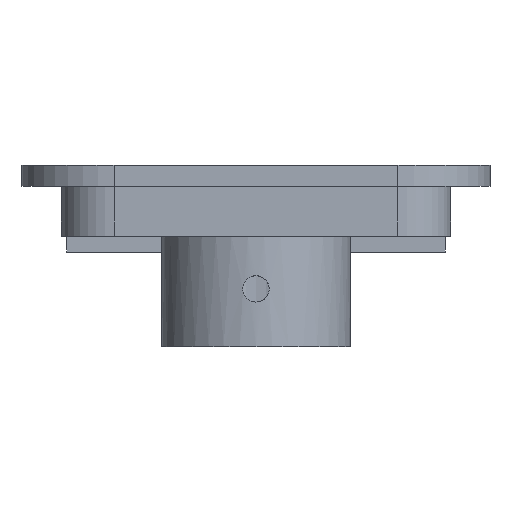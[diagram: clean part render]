
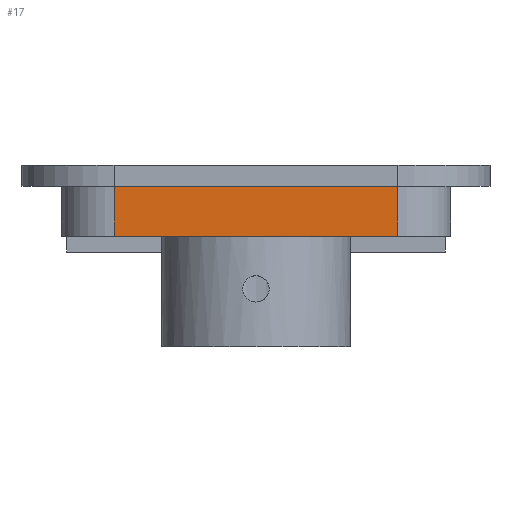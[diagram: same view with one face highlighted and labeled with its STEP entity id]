
A CAD part, left-side view. The second image highlights one B-rep face of the part: STEP entity #17.
In plain terms, the highlighted planar face has unit normal (-1, 0, 0).
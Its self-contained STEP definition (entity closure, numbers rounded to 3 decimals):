
#17 = ADVANCED_FACE('',(#18),#32,.T.);
#18 = FACE_BOUND('',#19,.T.);
#19 = EDGE_LOOP('',(#20,#55,#83,#109));
#20 = ORIENTED_EDGE('',*,*,#21,.F.);
#21 = EDGE_CURVE('',#22,#24,#26,.T.);
#22 = VERTEX_POINT('',#23);
#23 = CARTESIAN_POINT('',(-20.,-27.,0.));
#24 = VERTEX_POINT('',#25);
#25 = CARTESIAN_POINT('',(-20.,27.,0.));
#26 = SURFACE_CURVE('',#27,(#31,#43),.PCURVE_S1.);
#27 = LINE('',#28,#29);
#28 = CARTESIAN_POINT('',(-20.,0.,0.));
#29 = VECTOR('',#30,1.);
#30 = DIRECTION('',(0.,1.,0.));
#31 = PCURVE('',#32,#37);
#32 = PLANE('',#33);
#33 = AXIS2_PLACEMENT_3D('',#34,#35,#36);
#34 = CARTESIAN_POINT('',(-20.,-27.,0.));
#35 = DIRECTION('',(-1.,0.,0.));
#36 = DIRECTION('',(0.,1.,0.));
#37 = DEFINITIONAL_REPRESENTATION('',(#38),#42);
#38 = LINE('',#39,#40);
#39 = CARTESIAN_POINT('',(27.,0.));
#40 = VECTOR('',#41,1.);
#41 = DIRECTION('',(1.,0.));
#42 = ( GEOMETRIC_REPRESENTATION_CONTEXT(2) 
PARAMETRIC_REPRESENTATION_CONTEXT() REPRESENTATION_CONTEXT('2D SPACE',''
  ) );
#43 = PCURVE('',#44,#49);
#44 = PLANE('',#45);
#45 = AXIS2_PLACEMENT_3D('',#46,#47,#48);
#46 = CARTESIAN_POINT('',(46.5,0.,0.));
#47 = DIRECTION('',(0.,0.,1.));
#48 = DIRECTION('',(1.,0.,-0.));
#49 = DEFINITIONAL_REPRESENTATION('',(#50),#54);
#50 = LINE('',#51,#52);
#51 = CARTESIAN_POINT('',(-66.5,0.));
#52 = VECTOR('',#53,1.);
#53 = DIRECTION('',(0.,1.));
#54 = ( GEOMETRIC_REPRESENTATION_CONTEXT(2) 
PARAMETRIC_REPRESENTATION_CONTEXT() REPRESENTATION_CONTEXT('2D SPACE',''
  ) );
#55 = ORIENTED_EDGE('',*,*,#56,.T.);
#56 = EDGE_CURVE('',#22,#57,#59,.T.);
#57 = VERTEX_POINT('',#58);
#58 = CARTESIAN_POINT('',(-20.,-27.,9.5));
#59 = SURFACE_CURVE('',#60,(#64,#71),.PCURVE_S1.);
#60 = LINE('',#61,#62);
#61 = CARTESIAN_POINT('',(-20.,-27.,0.));
#62 = VECTOR('',#63,1.);
#63 = DIRECTION('',(0.,0.,1.));
#64 = PCURVE('',#32,#65);
#65 = DEFINITIONAL_REPRESENTATION('',(#66),#70);
#66 = LINE('',#67,#68);
#67 = CARTESIAN_POINT('',(0.,0.));
#68 = VECTOR('',#69,1.);
#69 = DIRECTION('',(0.,-1.));
#70 = ( GEOMETRIC_REPRESENTATION_CONTEXT(2) 
PARAMETRIC_REPRESENTATION_CONTEXT() REPRESENTATION_CONTEXT('2D SPACE',''
  ) );
#71 = PCURVE('',#72,#77);
#72 = CYLINDRICAL_SURFACE('',#73,10.);
#73 = AXIS2_PLACEMENT_3D('',#74,#75,#76);
#74 = CARTESIAN_POINT('',(-10.,-27.,0.));
#75 = DIRECTION('',(-0.,-0.,-1.));
#76 = DIRECTION('',(1.,0.,0.));
#77 = DEFINITIONAL_REPRESENTATION('',(#78),#82);
#78 = LINE('',#79,#80);
#79 = CARTESIAN_POINT('',(-3.142,0.));
#80 = VECTOR('',#81,1.);
#81 = DIRECTION('',(-0.,-1.));
#82 = ( GEOMETRIC_REPRESENTATION_CONTEXT(2) 
PARAMETRIC_REPRESENTATION_CONTEXT() REPRESENTATION_CONTEXT('2D SPACE',''
  ) );
#83 = ORIENTED_EDGE('',*,*,#84,.T.);
#84 = EDGE_CURVE('',#57,#85,#87,.T.);
#85 = VERTEX_POINT('',#86);
#86 = CARTESIAN_POINT('',(-20.,27.,9.5));
#87 = SURFACE_CURVE('',#88,(#92,#98),.PCURVE_S1.);
#88 = LINE('',#89,#90);
#89 = CARTESIAN_POINT('',(-20.,-13.5,9.5));
#90 = VECTOR('',#91,1.);
#91 = DIRECTION('',(0.,1.,-0.));
#92 = PCURVE('',#32,#93);
#93 = DEFINITIONAL_REPRESENTATION('',(#94),#97);
#94 = B_SPLINE_CURVE_WITH_KNOTS('',1,(#95,#96),.UNSPECIFIED.,.F.,.F.,(2,
    2),(-13.5,40.5),.PIECEWISE_BEZIER_KNOTS.);
#95 = CARTESIAN_POINT('',(0.,-9.5));
#96 = CARTESIAN_POINT('',(54.,-9.5));
#97 = ( GEOMETRIC_REPRESENTATION_CONTEXT(2) 
PARAMETRIC_REPRESENTATION_CONTEXT() REPRESENTATION_CONTEXT('2D SPACE',''
  ) );
#98 = PCURVE('',#99,#104);
#99 = PLANE('',#100);
#100 = AXIS2_PLACEMENT_3D('',#101,#102,#103);
#101 = CARTESIAN_POINT('',(46.5,0.,9.5));
#102 = DIRECTION('',(0.,0.,1.));
#103 = DIRECTION('',(1.,0.,-0.));
#104 = DEFINITIONAL_REPRESENTATION('',(#105),#108);
#105 = B_SPLINE_CURVE_WITH_KNOTS('',1,(#106,#107),.UNSPECIFIED.,.F.,.F.,
  (2,2),(-13.5,40.5),.PIECEWISE_BEZIER_KNOTS.);
#106 = CARTESIAN_POINT('',(-66.5,-27.));
#107 = CARTESIAN_POINT('',(-66.5,27.));
#108 = ( GEOMETRIC_REPRESENTATION_CONTEXT(2) 
PARAMETRIC_REPRESENTATION_CONTEXT() REPRESENTATION_CONTEXT('2D SPACE',''
  ) );
#109 = ORIENTED_EDGE('',*,*,#110,.F.);
#110 = EDGE_CURVE('',#24,#85,#111,.T.);
#111 = SURFACE_CURVE('',#112,(#116,#123),.PCURVE_S1.);
#112 = LINE('',#113,#114);
#113 = CARTESIAN_POINT('',(-20.,27.,0.));
#114 = VECTOR('',#115,1.);
#115 = DIRECTION('',(0.,0.,1.));
#116 = PCURVE('',#32,#117);
#117 = DEFINITIONAL_REPRESENTATION('',(#118),#122);
#118 = LINE('',#119,#120);
#119 = CARTESIAN_POINT('',(54.,0.));
#120 = VECTOR('',#121,1.);
#121 = DIRECTION('',(0.,-1.));
#122 = ( GEOMETRIC_REPRESENTATION_CONTEXT(2) 
PARAMETRIC_REPRESENTATION_CONTEXT() REPRESENTATION_CONTEXT('2D SPACE',''
  ) );
#123 = PCURVE('',#124,#129);
#124 = CYLINDRICAL_SURFACE('',#125,10.);
#125 = AXIS2_PLACEMENT_3D('',#126,#127,#128);
#126 = CARTESIAN_POINT('',(-10.,27.,0.));
#127 = DIRECTION('',(-0.,-0.,-1.));
#128 = DIRECTION('',(1.,0.,0.));
#129 = DEFINITIONAL_REPRESENTATION('',(#130),#134);
#130 = LINE('',#131,#132);
#131 = CARTESIAN_POINT('',(-3.142,0.));
#132 = VECTOR('',#133,1.);
#133 = DIRECTION('',(-0.,-1.));
#134 = ( GEOMETRIC_REPRESENTATION_CONTEXT(2) 
PARAMETRIC_REPRESENTATION_CONTEXT() REPRESENTATION_CONTEXT('2D SPACE',''
  ) );
